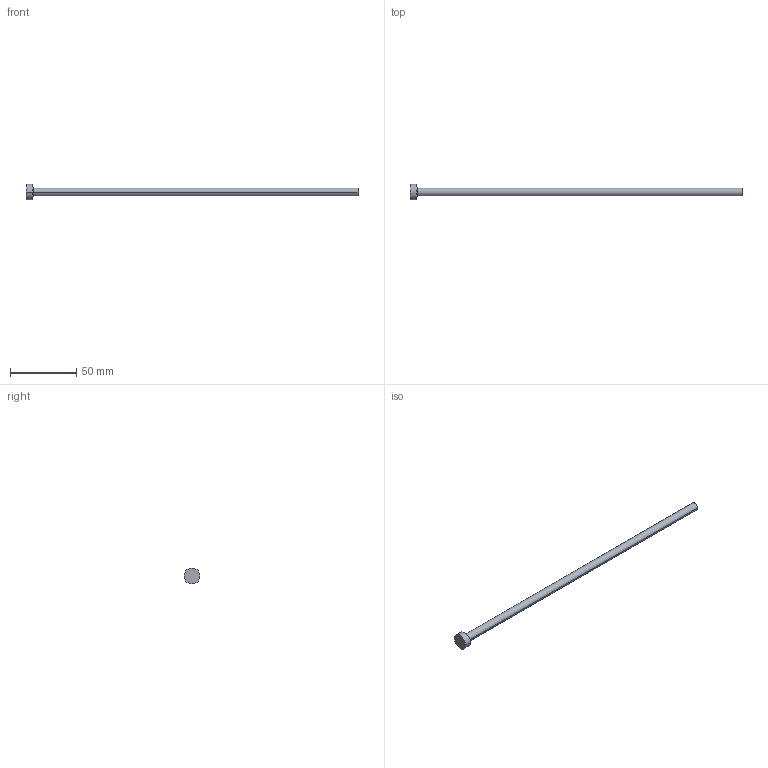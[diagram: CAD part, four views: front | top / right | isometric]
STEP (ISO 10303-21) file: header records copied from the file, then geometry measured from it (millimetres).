
FILE_DESCRIPTION (( 'STEP AP214' ), '1' );
FILE_NAME ('A-6x250.STEP', '2020-05-29T15:41:09', ( 'August' ), ( '' ), 'SwSTEP 2.0', 'SolidWorks 2018', '' );
FILE_SCHEMA (( 'AUTOMOTIVE_DESIGN' ));
Length unit declared in the file: millimetre
Products named in the file (1): A-6x250
Bounding box: 250 x 12 x 12 mm (x, y, z)
Volume: 7493.7 mm3; surface area: 5028.9 mm2
Topology: 1 solids, 1 shells, 9 faces, 16 edges, 10 vertices
Faces by surface type: cylinder 4, plane 3, torus 2
Entity records: 260 total; most frequent: DIRECTION 48, CARTESIAN_POINT 36, ORIENTED_EDGE 32, AXIS2_PLACEMENT_3D 22, EDGE_CURVE 16, CIRCLE 12, EDGE_LOOP 10, VERTEX_POINT 10
